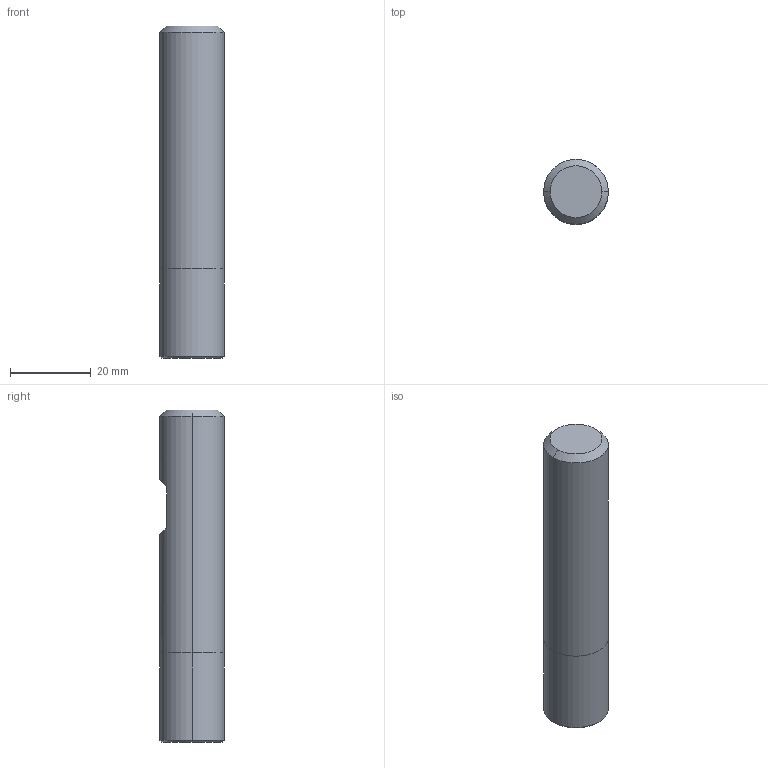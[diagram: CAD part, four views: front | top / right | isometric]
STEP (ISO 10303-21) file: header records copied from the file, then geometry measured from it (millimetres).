
FILE_DESCRIPTION (( 'STEP AP214' ), '1' );
FILE_NAME ('831.160.10_3D-model.step', '2022-02-19T10:36:18', ( '' ), ( '' ), 'SwSTEP 2.0', 'SolidWorks 2020', '' );
FILE_SCHEMA (( 'AUTOMOTIVE_DESIGN' ));
Length unit declared in the file: millimetre
Products named in the file (3): 831.160.10_3D-model; NOCUT-3D^Baugr39; CUT-3D^Baugr39
Assembly tree (2 placements, depth 2):
  831.160.10_3D-model
    CUT-3D^Baugr39
    NOCUT-3D^Baugr39
Bounding box: 16 x 16 x 82 mm (x, y, z)
Volume: 16280.6 mm3; surface area: 4864.4 mm2
Topology: 2 solids, 2 shells, 15 faces, 26 edges, 16 vertices
Faces by surface type: plane 7, cylinder 4, cone 4
Entity records: 482 total; most frequent: DIRECTION 82, CARTESIAN_POINT 71, ORIENTED_EDGE 52, AXIS2_PLACEMENT_3D 35, EDGE_CURVE 26, VERTEX_POINT 16, EDGE_LOOP 16, ADVANCED_FACE 15
